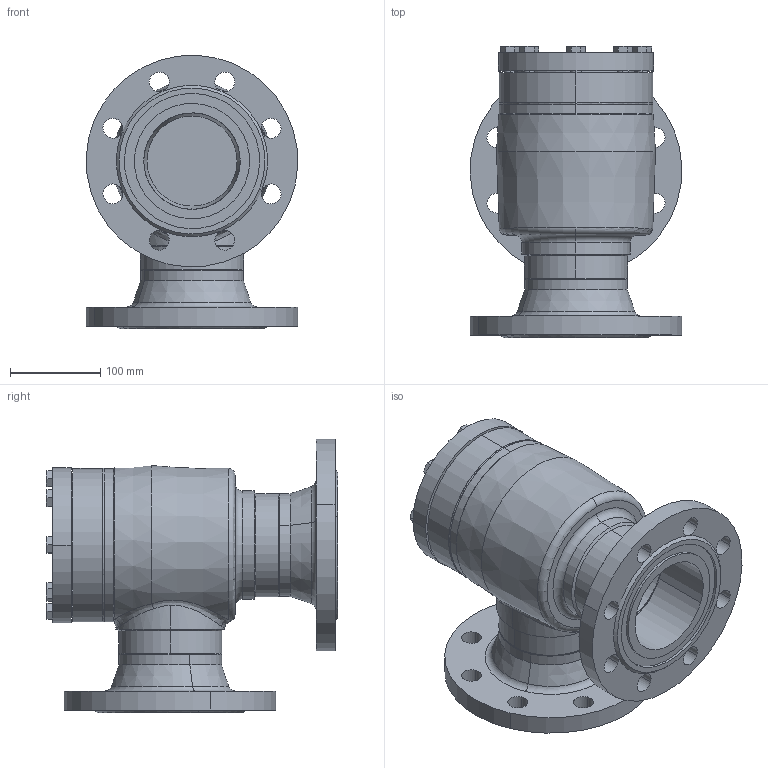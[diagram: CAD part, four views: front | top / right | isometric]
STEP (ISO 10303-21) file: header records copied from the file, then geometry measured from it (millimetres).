
FILE_DESCRIPTION (( 'STEP AP214' ), '1' );
FILE_NAME ('SS52420D19-DN100_DIN-FL-N_PS40.STEP', '2007-01-08T09:54:17', ( 'Herr Grams' ), ( 'AWP GmbH' ), 'SwSTEP 2.0', 'SolidWorks 2002296', '' );
FILE_SCHEMA (( 'AUTOMOTIVE_DESIGN' ));
Length unit declared in the file: millimetre
Products named in the file (12): SS52420D19-DN100_DIN-FL-N_PS40; SS52300E19_Deck+Schr-DN100_Standard; Deckel52300E19-DN100_Standard; Sechskantschraube-DIN933_M12x 35; Gehäuse-kpl16420-DN100_DIN_PS40_Standard; Gehäuse-kpl16400-DN100_R1_Standard; bead-DN100-1_Standard; Gehäuse16400-DN100_Standard; Kopfstück16300-DN100_Standard; Flansch-DIN-Nut_PS40_DIN-Flansch-DN100_PS40-Nut; bead-DN100-4_Standard; bead-DN100-3_Standard
Assembly tree (19 placements, depth 4):
  SS52420D19-DN100_DIN-FL-N_PS40
    SS52300E19_Deck+Schr-DN100_Standard
      Sechskantschraube-DIN933_M12x 35  x8
      Deckel52300E19-DN100_Standard
    Gehäuse-kpl16420-DN100_DIN_PS40_Standard
      Flansch-DIN-Nut_PS40_DIN-Flansch-DN100_PS40-Nut  x2
      bead-DN100-3_Standard
      bead-DN100-4_Standard
      Gehäuse-kpl16400-DN100_R1_Standard
        bead-DN100-1_Standard
        Kopfstück16300-DN100_Standard
        Gehäuse16400-DN100_Standard
Bounding box: 234.78 x 323.5 x 303.39 mm (x, y, z)
Volume: 3921157.5 mm3; surface area: 641505.2 mm2
Topology: 16 solids, 16 shells, 373 faces, 846 edges, 509 vertices
Faces by surface type: cone 132, cylinder 113, plane 102, bspline 18, torus 8
Entity records: 17840 total; most frequent: CARTESIAN_POINT 13401, DIRECTION 827, ORIENTED_EDGE 756, EDGE_CURVE 378, AXIS2_PLACEMENT_3D 367, VERTEX_POINT 235, EDGE_LOOP 207, CIRCLE 200
